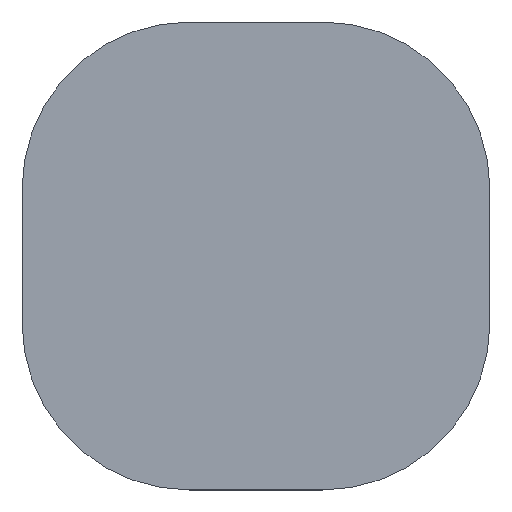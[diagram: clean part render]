
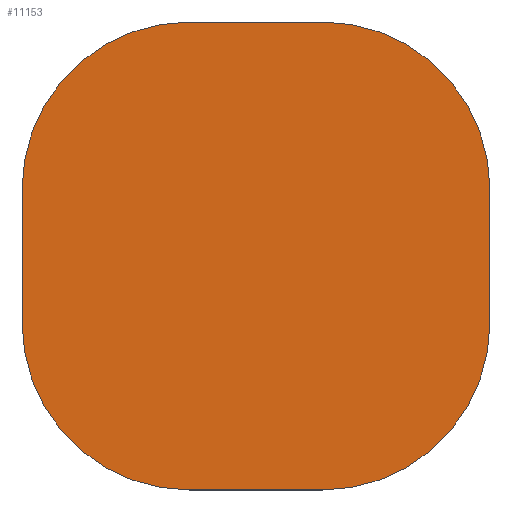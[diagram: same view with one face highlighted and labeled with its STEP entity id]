
A CAD part, top view. The second image highlights one B-rep face of the part: STEP entity #11153.
In plain terms, the highlighted planar face has unit normal (0, 0, 1).
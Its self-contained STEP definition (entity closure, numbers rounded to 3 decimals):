
#11078=CARTESIAN_POINT('',(0.,0.,20.));
#11079=DIRECTION('',(1.,0.,0.));
#11080=DIRECTION('',(0.,0.,1.));
#11081=AXIS2_PLACEMENT_3D('',#11078,#11080,#11079);
#11082=PLANE('',#11081);
#11083=CARTESIAN_POINT('',(-100.,-350.,20.));
#11084=VERTEX_POINT('',#11083);
#11085=CARTESIAN_POINT('',(100.,-350.,20.));
#11086=VERTEX_POINT('',#11085);
#11087=CARTESIAN_POINT('',(-100.,-350.,20.));
#11088=DIRECTION('',(1.,0.,0.));
#11089=VECTOR('',#11088,200.);
#11090=LINE('',#11087,#11089);
#11091=EDGE_CURVE('',#11084,#11086,#11090,.T.);
#11092=ORIENTED_EDGE('E9',*,*,#11091,.T.);
#11093=CARTESIAN_POINT('',(350.,-100.,20.));
#11094=VERTEX_POINT('',#11093);
#11095=CARTESIAN_POINT('',(100.,-100.,20.));
#11096=DIRECTION('',(0.,-1.,0.));
#11097=DIRECTION('',(0.,-0.,1.));
#11098=AXIS2_PLACEMENT_3D('',#11095,#11097,#11096);
#11099=CIRCLE('',#11098,250.);
#11100=EDGE_CURVE('',#11086,#11094,#11099,.T.);
#11101=ORIENTED_EDGE('E10',*,*,#11100,.T.);
#11102=CARTESIAN_POINT('',(350.,100.,20.));
#11103=VERTEX_POINT('',#11102);
#11104=CARTESIAN_POINT('',(350.,-100.,20.));
#11105=DIRECTION('',(0.,1.,0.));
#11106=VECTOR('',#11105,200.);
#11107=LINE('',#11104,#11106);
#11108=EDGE_CURVE('',#11094,#11103,#11107,.T.);
#11109=ORIENTED_EDGE('E11',*,*,#11108,.T.);
#11110=CARTESIAN_POINT('',(100.,350.,20.));
#11111=VERTEX_POINT('',#11110);
#11112=CARTESIAN_POINT('',(100.,100.,20.));
#11113=DIRECTION('',(1.,0.,0.));
#11114=DIRECTION('',(0.,0.,1.));
#11115=AXIS2_PLACEMENT_3D('',#11112,#11114,#11113);
#11116=CIRCLE('',#11115,250.);
#11117=EDGE_CURVE('',#11103,#11111,#11116,.T.);
#11118=ORIENTED_EDGE('E12',*,*,#11117,.T.);
#11119=CARTESIAN_POINT('',(-100.,350.,20.));
#11120=VERTEX_POINT('',#11119);
#11121=CARTESIAN_POINT('',(100.,350.,20.));
#11122=DIRECTION('',(-1.,0.,0.));
#11123=VECTOR('',#11122,200.);
#11124=LINE('',#11121,#11123);
#11125=EDGE_CURVE('',#11111,#11120,#11124,.T.);
#11126=ORIENTED_EDGE('E13',*,*,#11125,.T.);
#11127=CARTESIAN_POINT('',(-350.,100.,20.));
#11128=VERTEX_POINT('',#11127);
#11129=CARTESIAN_POINT('',(-100.,100.,20.));
#11130=DIRECTION('',(0.,1.,0.));
#11131=DIRECTION('',(0.,0.,1.));
#11132=AXIS2_PLACEMENT_3D('',#11129,#11131,#11130);
#11133=CIRCLE('',#11132,250.);
#11134=EDGE_CURVE('',#11120,#11128,#11133,.T.);
#11135=ORIENTED_EDGE('E14',*,*,#11134,.T.);
#11136=CARTESIAN_POINT('',(-350.,-100.,20.));
#11137=VERTEX_POINT('',#11136);
#11138=CARTESIAN_POINT('',(-350.,100.,20.));
#11139=DIRECTION('',(0.,-1.,0.));
#11140=VECTOR('',#11139,200.);
#11141=LINE('',#11138,#11140);
#11142=EDGE_CURVE('',#11128,#11137,#11141,.T.);
#11143=ORIENTED_EDGE('E15',*,*,#11142,.T.);
#11144=CARTESIAN_POINT('',(-100.,-100.,20.));
#11145=DIRECTION('',(-1.,0.,0.));
#11146=DIRECTION('',(-0.,0.,1.));
#11147=AXIS2_PLACEMENT_3D('',#11144,#11146,#11145);
#11148=CIRCLE('',#11147,250.);
#11149=EDGE_CURVE('',#11137,#11084,#11148,.T.);
#11150=ORIENTED_EDGE('E16',*,*,#11149,.T.);
#11151=EDGE_LOOP('',(#11092,#11101,#11109,#11118,#11126,#11135,#11143,#11150));
#11152=FACE_OUTER_BOUND('',#11151,.T.);
#11153=ADVANCED_FACE('F2',(#11152),#11082,.T.);
